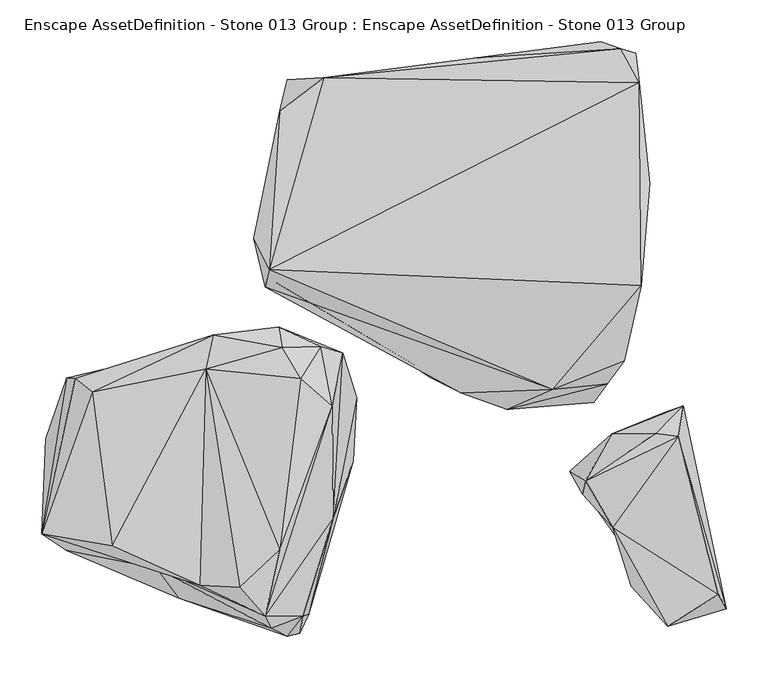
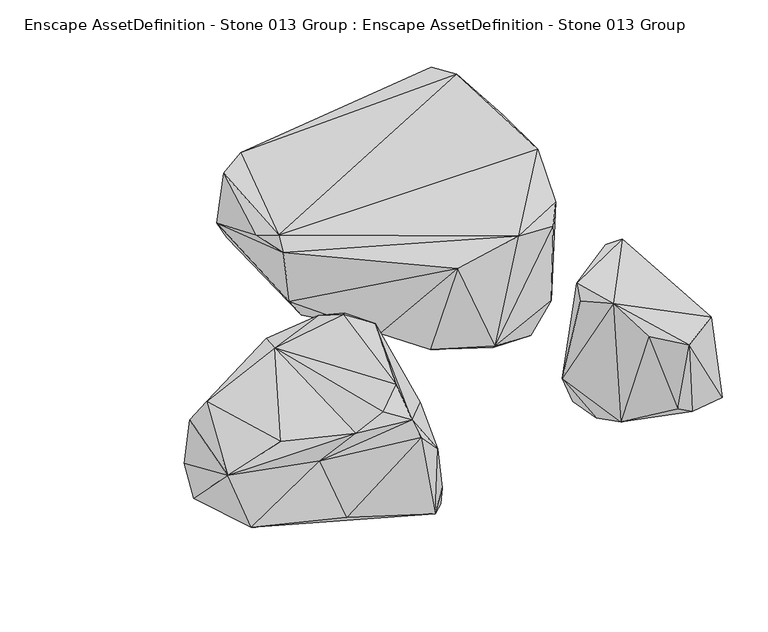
"""IFC4 building model written with IfcOpenShell, lengths in millimetres: geographic element geometry, Enscape AssetDefinition - Stone 013 Group : Enscape AssetDefinition - Stone 013 Group."""

from ifc_helpers import new_model, si_unit, origin, place, context, project, spatial, triangles, source, transform, mapped, element, save


def enscape_assetdefinition_stone_013_group_enscape_516da325(model_context):
    return source(origin(), model_context, "Body", "Tessellation", [
        triangles([(-217.1606001, 138.7887669, 183.4899446), (-221.4941474, 117.9587247, 164.8718768), (-87.6415345, 50.8954354, 7.2964166), (14.4902129, -9.6051402, 130.034432), (-23.179004, 8.8153731, -20.2934402), (-85.2957293, 94.1201453, -9.4862459), (69.7544587, -29.6874639, -22.883353), (83.3025643, 0.4895923, -48.5894306), (139.5708594, -17.3902437, -34.5160254), (137.2413322, 36.725747, -64.4448945), (-31.226764, 92.8014576, -20.5841224), (-71.8158971, 359.3972852, -2.6007608), (155.830005, 400.1094077, -27.9017853), (21.1564439, 373.2867353, -4.3886989), (-195.3423461, 367.7547329, 59.5643466), (-207.891344, 122.4450697, 65.8255197), (-177.2237936, 139.0211382, 19.9245515), (-189.7045725, 347.3546336, 43.0135945), (-151.6167175, 370.2103606, 175.708461), (-204.3480283, 329.8138438, 180.0451876), (-10.9378419, 369.4237807, 51.0025782), (-10.0400315, 378.1482845, 11.7664863), (33.2891063, 394.5882694, 172.1786801), (206.7231922, 405.0839951, 189.2054751), (228.8904801, 364.221373, 193.1900248), (224.263982, 400.0022558, 135.5117231), (169.7022506, 375.7884722, -33.409357), (182.05553, 413.8907613, 6.1902006), (222.3096681, 379.6148375, 59.0403961), (241.3979107, 242.7920661, 185.6766026), (230.9971284, 119.5708174, 200.0000015), (210.7529607, 28.9456169, 162.3796234), (227.1626604, 224.1211128, 44.4932235), (-235.5973927, 176.1447171, 167.9170398), (190.1304186, 0.7432037, 141.8388896), (124.7904207, -5.8665171, 150.3590635), (173.9141846, -20.9566287, 20.4453363), (157.4204239, 74.9030906, -68.5980658), (179.9475191, 56.9260584, -47.2770697), (148.6597486, 358.0306898, -43.759511), (-128.1330219, 38.2984981, 28.4790779), (-141.2100671, -25.3168459, 90.9316953), (-293.2906008, 19.281706, 70.9917832), (-178.8593951, 7.6720858, 100.4057264), (-204.0871794, -199.152833, 104.0684116), (-252.6779816, -244.1786094, 96.7005746), (-406.2246231, -193.8061935, 64.7486823), (-201.3467398, 45.3069502, 83.5918817), (-450.6219495, 7.750747, -2.0673179), (-284.6673808, 59.9861232, 60.8522949), (-430.3628663, -8.7150124, 35.441866), (-300.747086, -241.7902923, 71.7874241), (-352.6858852, -221.3978597, 25.6965851), (-221.7572491, -278.9220011, 91.5727354), (-491.2978824, -179.389232, 21.4769617), (-192.8509648, 18.2735894, -85.2175273), (-115.9063246, -91.3842294, -104.8025783), (-460.8495955, 8.2638465, -80.7524292), (-169.5612163, -276.8370448, -85.1076776), (-486.3169727, -65.460244, -92.4859154), (-195.1605803, -302.9997283, -79.7420531), (-461.2908113, -199.3409029, -73.9876441), (-325.2406855, -257.0752423, -68.2856848), (-180.2517702, -299.7212947, -37.4445395), (-139.852501, -161.0758512, 24.2449863), (-176.7889001, -279.3017381, 21.8096835), (-214.4065895, -293.7349777, 65.2812306), (-154.679948, 46.1152539, 71.8687963), (-121.3433746, 11.2117975, -66.1026376), (-111.7653618, -15.8586284, -80.5263893), (-205.4736681, 69.6663054, 61.3907068), (-253.1824748, 57.1878111, -58.7845205), (250.3728534, -276.9604929, -54.1991672), (263.2840021, -290.8941809, 70.0202764), (218.8558818, -242.9815168, 72.3412012), (202.087683, -185.2792431, -117.1535958), (274.5360224, -279.7181007, -65.7875451), (333.8182869, -270.1699008, -65.9118653), (324.040904, -252.670751, 77.7316925), (197.0868618, -171.5602585, 98.2091308), (275.6870059, -62.4923974, 125.8853303), (282.0182329, -25.49496, -23.3417507), (248.6319168, -58.706314, 122.548143), (195.4865234, -58.9653507, 23.1125495), (164.4356389, -115.5623049, 114.7463209), (260.4069975, -32.5517808, -81.8256559), (145.3085361, -104.3053066, -65.026704), (167.6634215, -98.2461925, -119.6811123), (188.3940057, -69.8914461, -116.2327218), (185.9831064, -139.1748443, -132.0266978), (271.1685318, -130.306572, -124.2872628), (160.9320919, -132.1175807, 92.2861093)], [[80, 92, 87], [76, 80, 87], [87, 88, 90], [87, 90, 76], [90, 91, 76], [89, 90, 88], [87, 89, 88], [89, 91, 90], [86, 91, 89], [84, 89, 87], [84, 86, 89], [85, 87, 92], [85, 92, 80], [87, 85, 84], [85, 83, 84], [84, 82, 86], [86, 82, 91], [84, 83, 82], [81, 82, 83], [83, 85, 81], [85, 80, 81], [80, 79, 81], [91, 82, 78], [78, 81, 79], [81, 78, 82], [76, 91, 77], [77, 91, 78], [77, 73, 76], [76, 75, 80], [75, 76, 73], [74, 80, 75], [77, 74, 73], [74, 79, 80], [78, 79, 74], [78, 74, 77], [74, 75, 73], [69, 56, 72], [71, 69, 72], [70, 56, 69], [41, 70, 69], [41, 71, 68], [69, 71, 41], [53, 67, 54], [63, 67, 53], [67, 63, 61], [61, 64, 66], [67, 66, 54], [67, 61, 66], [65, 54, 66], [65, 70, 41], [70, 57, 56], [70, 65, 57], [64, 61, 59], [66, 64, 59], [65, 59, 57], [65, 66, 59], [62, 61, 63], [53, 62, 63], [59, 61, 62], [60, 59, 62], [59, 60, 57], [72, 56, 58], [58, 57, 60], [56, 57, 58], [49, 72, 58], [58, 60, 55], [55, 62, 53], [60, 62, 55], [58, 55, 49], [54, 52, 53], [53, 52, 55], [55, 52, 47], [49, 55, 51], [51, 55, 47], [49, 51, 50], [72, 50, 71], [50, 72, 49], [71, 50, 48], [68, 71, 48], [51, 43, 50], [48, 50, 43], [47, 52, 43], [47, 43, 51], [54, 46, 52], [43, 52, 46], [54, 45, 46], [43, 46, 45], [68, 48, 44], [44, 48, 43], [44, 43, 45], [65, 42, 54], [65, 41, 42], [54, 42, 45], [42, 41, 68], [68, 44, 42], [42, 44, 45], [27, 40, 13], [38, 40, 27], [40, 38, 10], [39, 38, 27], [38, 39, 10], [10, 37, 9], [39, 37, 10], [37, 32, 35], [35, 32, 36], [20, 34, 1], [19, 20, 1], [32, 31, 36], [36, 31, 1], [32, 33, 31], [33, 37, 39], [33, 39, 27], [33, 32, 37], [33, 30, 31], [30, 25, 31], [25, 1, 31], [1, 25, 19], [25, 30, 26], [27, 29, 33], [33, 29, 30], [29, 26, 30], [27, 13, 28], [27, 28, 29], [22, 28, 13], [26, 24, 25], [25, 24, 19], [24, 26, 29], [28, 24, 29], [23, 19, 24], [23, 28, 22], [23, 24, 28], [22, 21, 23], [21, 19, 23], [15, 21, 22], [15, 20, 19], [15, 34, 20], [15, 19, 21], [17, 15, 18], [6, 16, 17], [16, 15, 17], [18, 15, 12], [12, 15, 22], [17, 12, 6], [12, 17, 18], [22, 14, 12], [22, 13, 14], [13, 40, 14], [14, 40, 10], [12, 11, 6], [12, 14, 11], [11, 14, 10], [10, 8, 11], [8, 10, 9], [37, 7, 9], [9, 7, 8], [35, 7, 37], [7, 35, 36], [7, 5, 8], [8, 5, 11], [6, 11, 3], [5, 3, 11], [16, 6, 3], [5, 4, 3], [4, 7, 36], [4, 5, 7], [3, 4, 16], [2, 1, 34], [4, 36, 2], [2, 34, 15], [36, 1, 2], [16, 4, 2], [2, 15, 16]]),
    ])


if __name__ == "__main__":
    model = new_model("IFC4")
    model_context = context("Model", 3, world=origin())
    ifc_project = project(units=[si_unit("LENGTHUNIT", "METRE", prefix="MILLI")], contexts=[model_context])
    site = spatial("IfcSite", under=ifc_project)
    building = spatial("IfcBuilding", under=site)
    placement = place(None, origin())
    enscape_assetdefinition_stone_013_group_enscape_shape = enscape_assetdefinition_stone_013_group_enscape_516da325(model_context)
    element("IfcGeographicElement", 1, ObjectType="Enscape AssetDefinition - Stone 013 Group : Enscape AssetDefinition - Stone 013 Group", at=placement, inside=building, context=model_context, shape_type="MappedRepresentation", body=[
        mapped(enscape_assetdefinition_stone_013_group_enscape_shape, transform((0.0, 0.0, 0.0), x_axis=(1.0, 0.0, 0.0), y_axis=(0.0, 1.0, 0.0), z_axis=(0.0, 0.0, 1.0))),
    ])
    save(model, "model.ifc")
